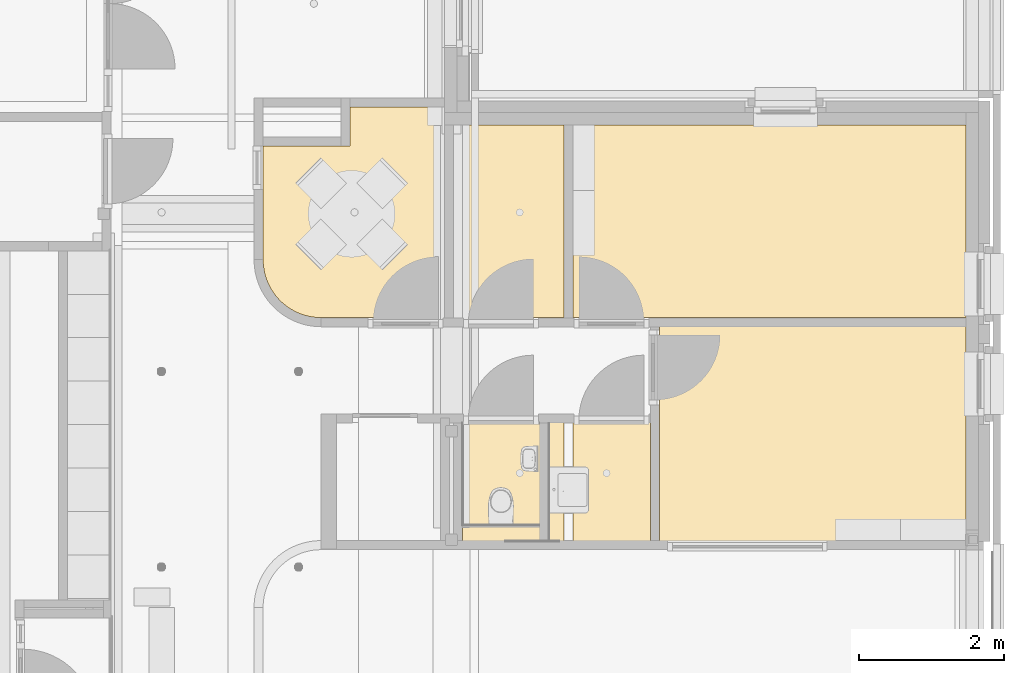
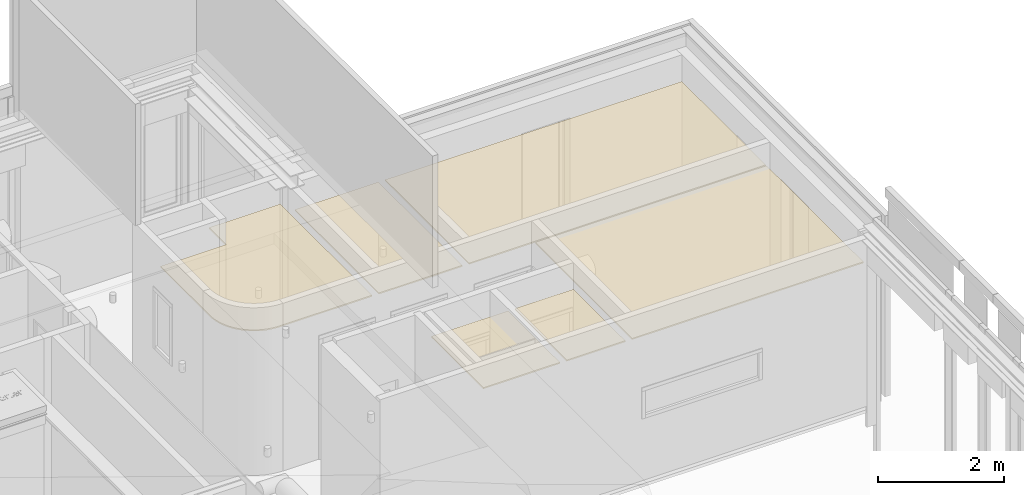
# One storey, part 74 of 128: 1 covering.
"""IFC2X3 building model written with IfcOpenShell, lengths in millimetres."""

from ifc_helpers import new_model, entity, si_unit, converted_unit, derived_unit, direction, frame, frame_2d, origin, place, context, subcontext, project, spatial, polyline, circle_curve, parameter, trimmed, segment, composite_curve, rectangle, outline, extrude, material, layer, layer_set, layer_usage, type_object, element, save


model = new_model("IFC2X3")

# Units and contexts
model_context = context("Model", 3, precision=0.01, world=origin(), true_north=direction((6.123031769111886e-17, 1.0)))
body_context = subcontext(model_context, "Body", "Model", "MODEL_VIEW")
ifc_project = project(units=[si_unit("LENGTHUNIT", "METRE", prefix="MILLI"), si_unit("AREAUNIT", "SQUARE_METRE"), si_unit("VOLUMEUNIT", "CUBIC_METRE"), converted_unit("PLANEANGLEUNIT", "DEGREE", entity("IfcRatioMeasure", 0.017453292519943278), si_unit("PLANEANGLEUNIT", "RADIAN"), dimensions=[0, 0, 0, 0, 0, 0, 0]), si_unit("MASSUNIT", "GRAM", prefix="KILO"), derived_unit("MASSDENSITYUNIT", [(si_unit("MASSUNIT", "GRAM", prefix="KILO"), 1), (si_unit("LENGTHUNIT", "METRE"), -3)]), derived_unit("IONCONCENTRATIONUNIT", [(si_unit("MASSUNIT", "GRAM", prefix="KILO"), 1), (si_unit("LENGTHUNIT", "METRE"), -3)]), derived_unit("MOMENTOFINERTIAUNIT", [(si_unit("LENGTHUNIT", "METRE"), 4)]), si_unit("TIMEUNIT", "SECOND"), si_unit("FREQUENCYUNIT", "HERTZ"), si_unit("THERMODYNAMICTEMPERATUREUNIT", "DEGREE_CELSIUS"), derived_unit("THERMALTRANSMITTANCEUNIT", [(si_unit("MASSUNIT", "GRAM", prefix="KILO"), 1), (si_unit("THERMODYNAMICTEMPERATUREUNIT", "KELVIN"), -1), (si_unit("TIMEUNIT", "SECOND"), -3)]), derived_unit("THERMALCONDUCTANCEUNIT", [(si_unit("MASSUNIT", "GRAM", prefix="KILO"), 1), (si_unit("THERMODYNAMICTEMPERATUREUNIT", "KELVIN"), -1), (si_unit("TIMEUNIT", "SECOND"), -3), (si_unit("LENGTHUNIT", "METRE"), 1)]), derived_unit("VOLUMETRICFLOWRATEUNIT", [(si_unit("LENGTHUNIT", "METRE"), 3), (si_unit("TIMEUNIT", "SECOND"), -1)]), derived_unit("MASSFLOWRATEUNIT", [(si_unit("MASSUNIT", "GRAM", prefix="KILO"), 1), (si_unit("TIMEUNIT", "SECOND"), -1)]), derived_unit("ROTATIONALFREQUENCYUNIT", [(si_unit("TIMEUNIT", "SECOND"), -1)]), si_unit("ELECTRICCURRENTUNIT", "AMPERE"), si_unit("ELECTRICVOLTAGEUNIT", "VOLT"), si_unit("POWERUNIT", "WATT"), si_unit("FORCEUNIT", "NEWTON", prefix="KILO"), si_unit("ILLUMINANCEUNIT", "LUX"), si_unit("LUMINOUSFLUXUNIT", "LUMEN"), si_unit("LUMINOUSINTENSITYUNIT", "CANDELA"), derived_unit("USERDEFINED", [(si_unit("MASSUNIT", "GRAM", prefix="KILO"), -1), (si_unit("LENGTHUNIT", "METRE"), -2), (si_unit("TIMEUNIT", "SECOND"), 3), (si_unit("LUMINOUSFLUXUNIT", "LUMEN"), 1)]), derived_unit("USERDEFINED", [(si_unit("MASSUNIT", "GRAM", prefix="KILO"), 1), (si_unit("TIMEUNIT", "SECOND"), -3), (si_unit("LENGTHUNIT", "METRE"), 3), (si_unit("ELECTRICCURRENTUNIT", "AMPERE"), -2)]), derived_unit("SOUNDPOWERUNIT", [(si_unit("MASSUNIT", "GRAM", prefix="KILO"), 1), (si_unit("TIMEUNIT", "SECOND"), -3), (si_unit("LENGTHUNIT", "METRE"), 2)]), derived_unit("SOUNDPRESSUREUNIT", [(si_unit("MASSUNIT", "GRAM", prefix="KILO"), 1), (si_unit("LENGTHUNIT", "METRE"), -1), (si_unit("TIMEUNIT", "SECOND"), -2)]), derived_unit("LINEARVELOCITYUNIT", [(si_unit("LENGTHUNIT", "METRE"), 1), (si_unit("TIMEUNIT", "SECOND"), -1)]), si_unit("PRESSUREUNIT", "PASCAL"), derived_unit("USERDEFINED", [(si_unit("MASSUNIT", "GRAM", prefix="KILO"), 1), (si_unit("LENGTHUNIT", "METRE"), -2), (si_unit("TIMEUNIT", "SECOND"), -2)]), derived_unit("LINEARFORCEUNIT", [(si_unit("MASSUNIT", "GRAM", prefix="KILO"), 1), (si_unit("TIMEUNIT", "SECOND"), -2)]), derived_unit("PLANARFORCEUNIT", [(si_unit("MASSUNIT", "GRAM", prefix="KILO"), 1), (si_unit("LENGTHUNIT", "METRE"), -1), (si_unit("TIMEUNIT", "SECOND"), -2)]), derived_unit("SPECIFICHEATCAPACITYUNIT", [(si_unit("THERMODYNAMICTEMPERATUREUNIT", "KELVIN"), -1), (si_unit("LENGTHUNIT", "METRE"), 2), (si_unit("TIMEUNIT", "SECOND"), -2)]), derived_unit("HEATINGVALUEUNIT", [(si_unit("LENGTHUNIT", "METRE"), 2), (si_unit("TIMEUNIT", "SECOND"), -2)]), derived_unit("VAPORPERMEABILITYUNIT", [(si_unit("LENGTHUNIT", "METRE"), -1), (si_unit("TIMEUNIT", "SECOND"), 1)]), derived_unit("DYNAMICVISCOSITYUNIT", [(si_unit("MASSUNIT", "GRAM", prefix="KILO"), 1), (si_unit("TIMEUNIT", "SECOND"), -1), (si_unit("LENGTHUNIT", "METRE"), -1)]), derived_unit("THERMALEXPANSIONCOEFFICIENTUNIT", [(si_unit("THERMODYNAMICTEMPERATUREUNIT", "KELVIN"), -1)]), derived_unit("MODULUSOFELASTICITYUNIT", [(si_unit("MASSUNIT", "GRAM", prefix="KILO"), 1), (si_unit("LENGTHUNIT", "METRE"), -1), (si_unit("TIMEUNIT", "SECOND"), -2)]), derived_unit("ISOTHERMALMOISTURECAPACITYUNIT", [(si_unit("LENGTHUNIT", "METRE"), 3), (si_unit("MASSUNIT", "GRAM", prefix="KILO"), -1)]), derived_unit("MOISTUREDIFFUSIVITYUNIT", [(si_unit("TIMEUNIT", "SECOND"), -1), (si_unit("LENGTHUNIT", "METRE"), 2)])], contexts=[model_context])

# Site, building, storey
site_placement = place(None, frame((0.0, 300.0, 0.0)))
site = spatial("IfcSite", under=ifc_project, at=site_placement, Name="<Kadastrale nummers>", CompositionType="ELEMENT")
building_placement = place(site_placement, origin())
building = spatial("IfcBuilding", under=site, at=building_placement, CompositionType="ELEMENT")
storey_placement = place(building_placement, frame((0.0, 0.0, 3560.0000331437)))
storey = spatial("IfcBuildingStorey", under=building, at=storey_placement, Name="01 eerste verdieping", CompositionType="ELEMENT", Elevation=3560.0000331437)

# Covering
ifc_material = material(Name="ISR_Paneel(2)")
ifc_layer = layer(ifc_material, 25.0)
ifc_layer_set = layer_set([ifc_layer], Name="Compound Ceiling:300_45_plaatwerk_25mm plafond 2")
ifc_layer_usage = layer_usage(ifc_layer_set, "AXIS3", "POSITIVE", 0.0)
covering_type = type_object("IfcCoveringType", Name="Compound Ceiling:300_45_plaatwerk_25mm plafond 2", PredefinedType="CEILING")
covering_placement = place(storey_placement, origin())
element("IfcCovering", 1, at=covering_placement, inside=storey, type_object=covering_type, material=ifc_layer_usage, Name="Compound Ceiling:300_45_plaatwerk_25mm plafond 2", ObjectType="Compound Ceiling:300_45_plaatwerk_25mm plafond 2", PredefinedType="CEILING", context=body_context, shape_type="SweptSolid", body=[
    extrude(rectangle(XDim=3067.125527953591, YDim=4230.000000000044, at=frame_2d((4.320099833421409e-12, -1.750777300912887e-11), x_axis=(1.0, 0.0))), frame((46385.0, 42308.56223869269, 2790.000024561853), z_axis=(0.0, 0.0, 1.0), x_axis=(0.0, 1.0, 0.0)), (0.0, 0.0, 1.0), 24.99999999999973),
    extrude(rectangle(XDim=2658.0000000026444, YDim=5424.9999999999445, at=frame_2d((-4.320099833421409e-12, 0.0), x_axis=(1.0, 0.0))), frame((45787.50000000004, 45196.0, 2790.000024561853), z_axis=(0.0, 0.0, 1.0), x_axis=(0.0, 1.0, 0.0)), (0.0, 0.0, 1.0), 24.99999999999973),
    extrude(rectangle(XDim=2658.0000000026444, YDim=1524.9999999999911, at=frame_2d((-4.320099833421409e-12, -4.320099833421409e-12), x_axis=(1.0, 0.0))), frame((42187.50000000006, 45196.0, 2790.000024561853), z_axis=(0.0, 0.0, 1.0), x_axis=(0.0, 1.0, 0.0)), (0.0, 0.0, 1.0), 24.99999999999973),
    extrude(rectangle(XDim=1642.1255279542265, YDim=1069.9999999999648, at=frame_2d((4.320099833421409e-12, 0.0), x_axis=(1.0, 0.0))), frame((43610.0, 41596.06223869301, 2790.000024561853), z_axis=(0.0, 0.0, 1.0), x_axis=(0.0, 1.0, 0.0)), (0.0, 0.0, 1.0), 24.99999999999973),
    extrude(rectangle(XDim=1642.125527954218, YDim=1400.0000000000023, at=frame_2d((0.0, -4.320099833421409e-12), x_axis=(1.0, 0.0))), frame((42250.0, 41596.06223869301, 2790.000024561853), z_axis=(0.0, 0.0, 1.0), x_axis=(0.0, 1.0, 0.0)), (0.0, 0.0, 1.0), 24.99999999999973),
    extrude(outline(composite_curve([segment(polyline([(-1621.7142857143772, -1328.571428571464), (1286.2857142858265, -1328.571428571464)]), True, "CONTINUOUS"), segment(polyline([(1286.2857142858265, -1328.571428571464), (1286.2857142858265, -28.57142857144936)]), True, "CONTINUOUS"), segment(polyline([(1286.2857142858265, -28.57142857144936), (746.2857142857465, -28.571428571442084)]), True, "CONTINUOUS"), segment(polyline([(746.2857142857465, -28.571428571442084), (746.2857142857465, 1171.4285714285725)]), True, "CONTINUOUS"), segment(polyline([(746.2857142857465, 1171.4285714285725), (-821.7142857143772, 1171.4285714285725)]), True, "CONTINUOUS"), segment(trimmed(circle_curve(frame_2d((-821.7142857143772, 371.42857142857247), x_axis=(0.0, -1.0)), 800.0), [parameter(179.99999999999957)], [parameter(269.9999999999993)], True, "PARAMETER"), True, "CONTINUOUS"), segment(polyline([(-1621.7142857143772, 371.42857142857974), (-1621.7142857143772, -1328.571428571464)]), True, "CONTINUOUS")], self_intersect=False)), frame((39971.42857142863, 45488.71428571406, 2790.0000245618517), z_axis=(0.0, 0.0, 1.0), x_axis=(0.0, 1.0, 0.0)), (0.0, 0.0, 1.0), 24.99999999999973),
])

save(model, "model.ifc")
